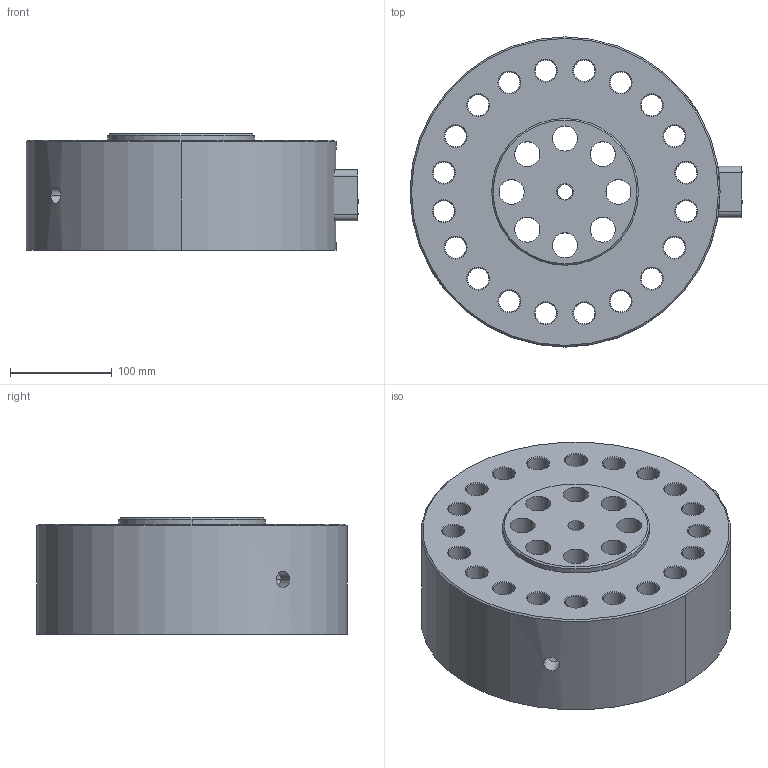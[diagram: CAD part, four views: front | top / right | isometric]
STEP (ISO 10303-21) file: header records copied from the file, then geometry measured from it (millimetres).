
FILE_DESCRIPTION (( 'STEP AP203' ), '1' );
FILE_NAME ('Interface 1258-1000KN.STEP', '2011-06-21T15:49:13', ( ' ' ), ( '' ), 'SwSTEP 2.0', 'SolidWorks 2002349', '' );
FILE_SCHEMA (( 'CONFIG_CONTROL_DESIGN' ));
Length unit declared in the file: inch
Products named in the file (1): Interface 1258-1000KN
Bounding box: 326.39 x 304.8 x 114.3 mm (x, y, z)
Volume: 6771373.5 mm3; surface area: 456854.2 mm2
Topology: 1 solids, 1 shells, 324 faces, 769 edges, 478 vertices
Faces by surface type: cylinder 140, plane 83, cone 74, bspline 27
Entity records: 10560 total; most frequent: CARTESIAN_POINT 3015, DIRECTION 1578, ORIENTED_EDGE 1530, EDGE_CURVE 765, AXIS2_PLACEMENT_3D 633, VERTEX_POINT 478, EDGE_LOOP 417, CIRCLE 335
